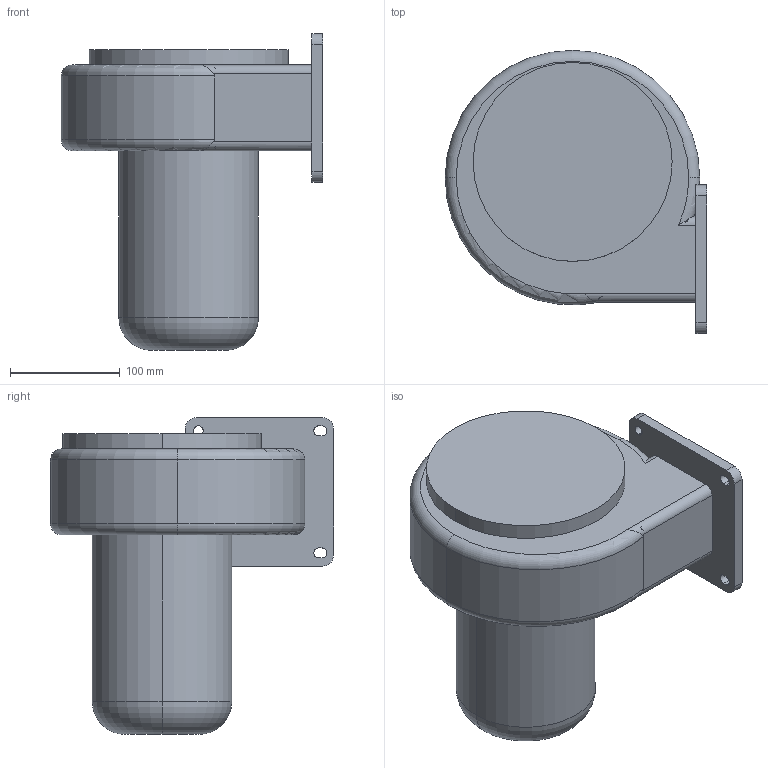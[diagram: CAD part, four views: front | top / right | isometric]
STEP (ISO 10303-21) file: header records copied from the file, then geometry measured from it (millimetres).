
FILE_DESCRIPTION (( 'STEP AP203' ), '1' );
FILE_NAME ('200.STEP', '2019-05-09T03:30:42', ( 'User' ), ( 'www.dadighost.com' ), 'SwSTEP 2.0', 'SolidWorks 2014', '' );
FILE_SCHEMA (( 'CONFIG_CONTROL_DESIGN' ));
Length unit declared in the file: millimetre
Products named in the file (1): 200
Bounding box: 237.88 x 257.5 x 288 mm (x, y, z)
Volume: 5979621.2 mm3; surface area: 262372.3 mm2
Topology: 1 solids, 1 shells, 59 faces, 159 edges, 104 vertices
Faces by surface type: cylinder 29, plane 20, torus 10
Entity records: 2259 total; most frequent: CARTESIAN_POINT 654, DIRECTION 325, ORIENTED_EDGE 318, EDGE_CURVE 159, AXIS2_PLACEMENT_3D 126, VERTEX_POINT 104, VECTOR 73, LINE 73
